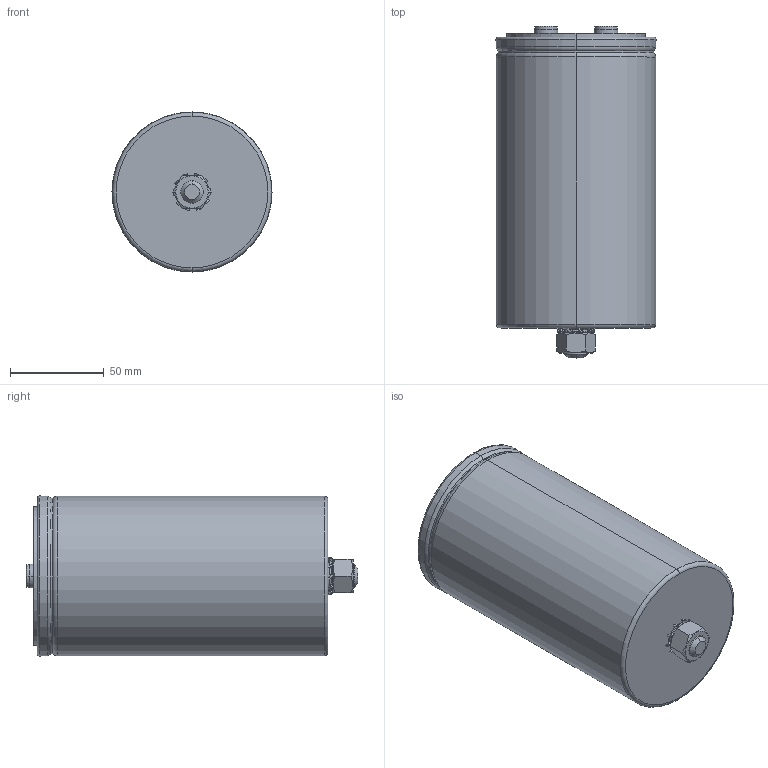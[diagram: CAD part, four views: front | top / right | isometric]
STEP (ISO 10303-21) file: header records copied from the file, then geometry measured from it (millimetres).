
FILE_DESCRIPTION (( 'STEP AP203' ), '1' );
FILE_NAME ('B25620Bx_85x155_161.STEP', '2021-07-01T02:39:54', ( '' ), ( '' ), 'SwSTEP 2.0', 'SolidWorks 2017', '' );
FILE_SCHEMA (( 'CONFIG_CONTROL_DESIGN' ));
Length unit declared in the file: millimetre
Products named in the file (1): B25620Bx_85x155_161
Bounding box: 85.4 x 177 x 85.4 mm (x, y, z)
Volume: 67513.8 mm3; surface area: 111633.1 mm2
Topology: 2 solids, 3 shells, 234 faces, 540 edges, 338 vertices
Faces by surface type: cylinder 85, plane 55, bspline 48, cone 30, torus 16
Entity records: 7453 total; most frequent: CARTESIAN_POINT 2221, ORIENTED_EDGE 1072, DIRECTION 1048, EDGE_CURVE 536, AXIS2_PLACEMENT_3D 423, VERTEX_POINT 338, EDGE_LOOP 266, CIRCLE 236
